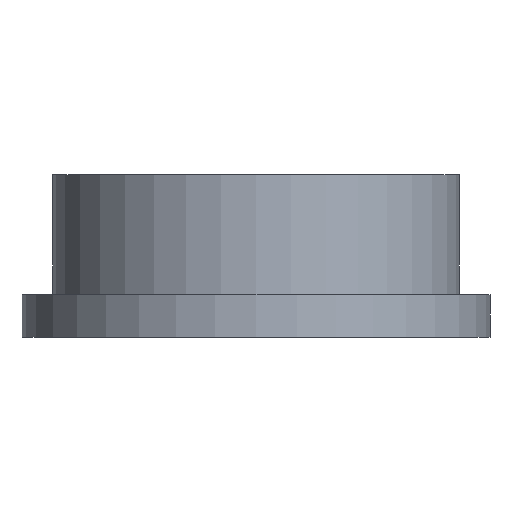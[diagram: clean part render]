
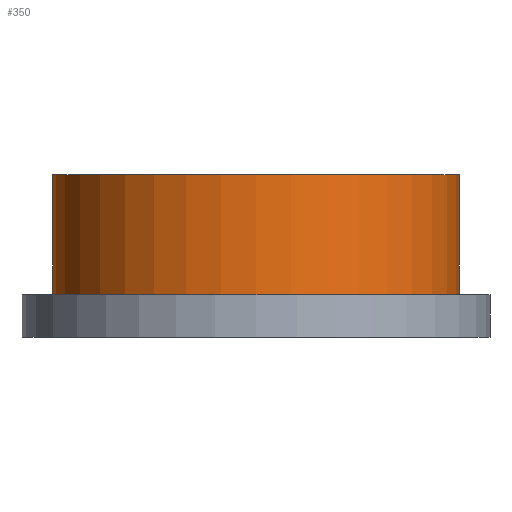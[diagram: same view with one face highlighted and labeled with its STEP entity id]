
A CAD part, front view. The second image highlights one B-rep face of the part: STEP entity #350.
In plain terms, the highlighted cylindrical face has radius 5 mm (diameter 10 mm), a partial arc.
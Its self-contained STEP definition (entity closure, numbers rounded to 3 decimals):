
#14 = ORIENTED_EDGE ( 'NONE', *, *, #235, .F. ) ;
#120 = CARTESIAN_POINT ( 'NONE',  ( 0., 0., 0.15 ) ) ;
#130 = CARTESIAN_POINT ( 'NONE',  ( 5., 0., 4. ) ) ;
#150 = VERTEX_POINT ( 'NONE', #329 ) ;
#159 = ORIENTED_EDGE ( 'NONE', *, *, #313, .F. ) ;
#225 = DIRECTION ( 'NONE',  ( 0., 0., -1. ) ) ;
#235 = EDGE_CURVE ( 'NONE', #812, #150, #477, .T. ) ;
#269 = VERTEX_POINT ( 'NONE', #661 ) ;
#313 = EDGE_CURVE ( 'NONE', #820, #812, #627, .T. ) ;
#314 = LINE ( 'NONE', #692, #734 ) ;
#329 = CARTESIAN_POINT ( 'NONE',  ( 5., 0., 0.15 ) ) ;
#350 = ADVANCED_FACE ( 'NONE', ( #821 ), #732, .T. ) ;
#365 = ORIENTED_EDGE ( 'NONE', *, *, #651, .T. ) ;
#391 = ORIENTED_EDGE ( 'NONE', *, *, #792, .T. ) ;
#422 = DIRECTION ( 'NONE',  ( 0., 0., -1. ) ) ;
#446 = EDGE_LOOP ( 'NONE', ( #14, #159, #391, #365 ) ) ;
#477 = LINE ( 'NONE', #506, #978 ) ;
#506 = CARTESIAN_POINT ( 'NONE',  ( 5., 0., 18.142 ) ) ;
#523 = DIRECTION ( 'NONE',  ( 0., 0., -1. ) ) ;
#580 = DIRECTION ( 'NONE',  ( 1., 0., 0. ) ) ;
#604 = DIRECTION ( 'NONE',  ( 0., 0., 1. ) ) ;
#616 = CIRCLE ( 'NONE', #1028, 5. ) ;
#622 = AXIS2_PLACEMENT_3D ( 'NONE', #842, #523, #1005 ) ;
#627 = CIRCLE ( 'NONE', #777, 5. ) ;
#651 = EDGE_CURVE ( 'NONE', #269, #150, #616, .T. ) ;
#661 = CARTESIAN_POINT ( 'NONE',  ( -5., 0., 0.15 ) ) ;
#692 = CARTESIAN_POINT ( 'NONE',  ( -5., 0., 18.142 ) ) ;
#732 = CYLINDRICAL_SURFACE ( 'NONE', #622, 5. ) ;
#734 = VECTOR ( 'NONE', #225, 1000. ) ;
#753 = DIRECTION ( 'NONE',  ( 0., 0., 1. ) ) ;
#766 = CARTESIAN_POINT ( 'NONE',  ( 0., 0., 4. ) ) ;
#777 = AXIS2_PLACEMENT_3D ( 'NONE', #766, #604, #852 ) ;
#792 = EDGE_CURVE ( 'NONE', #820, #269, #314, .T. ) ;
#812 = VERTEX_POINT ( 'NONE', #130 ) ;
#820 = VERTEX_POINT ( 'NONE', #925 ) ;
#821 = FACE_OUTER_BOUND ( 'NONE', #446, .T. ) ;
#842 = CARTESIAN_POINT ( 'NONE',  ( 0., 0., 18.142 ) ) ;
#852 = DIRECTION ( 'NONE',  ( 1., 0., 0. ) ) ;
#925 = CARTESIAN_POINT ( 'NONE',  ( -5., 0., 4. ) ) ;
#978 = VECTOR ( 'NONE', #422, 1000. ) ;
#1005 = DIRECTION ( 'NONE',  ( -1., 0., 0. ) ) ;
#1028 = AXIS2_PLACEMENT_3D ( 'NONE', #120, #753, #580 ) ;
